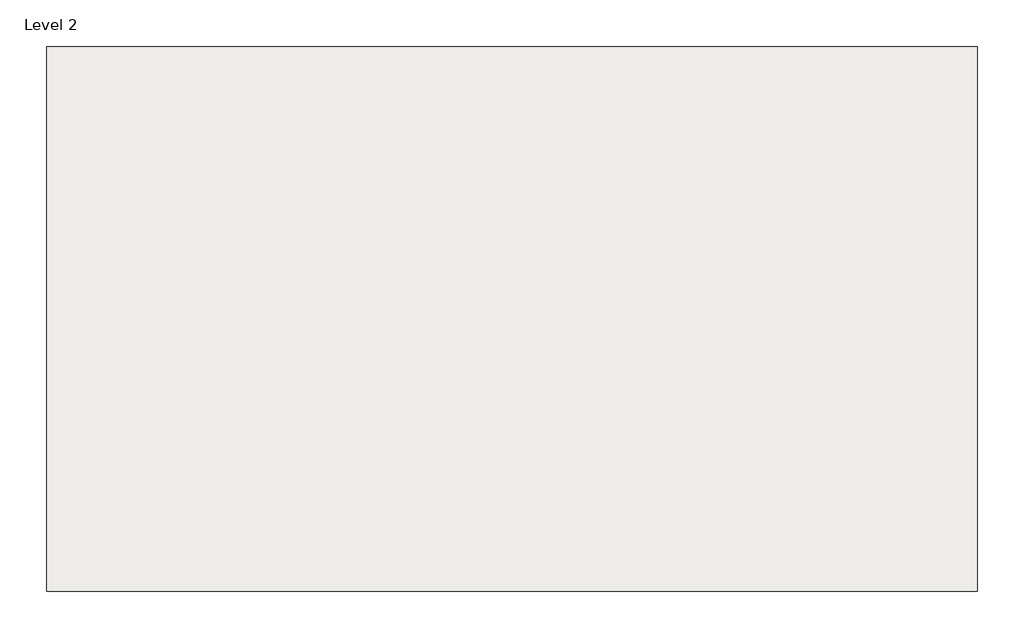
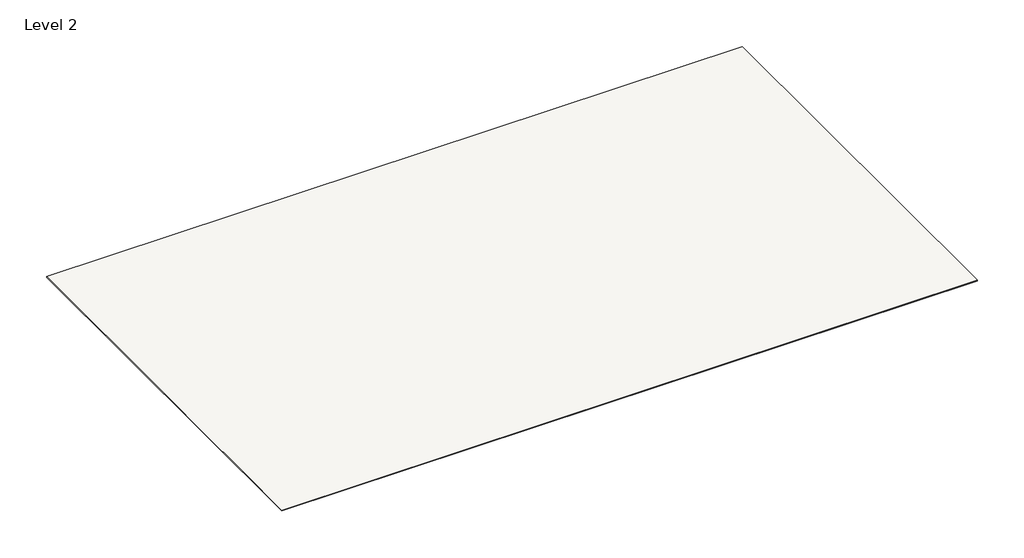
# One storey: 1 slab.
"""IFC4 building model written with IfcOpenShell, lengths in millimetres."""

from ifc_helpers import new_model, si_unit, frame, origin, place, context, project, spatial, polyline, outline, extrude, element, save

model = new_model("IFC4")

# Units and contexts
model_context = context("Model", 3, world=origin())
ifc_project = project(units=[si_unit("LENGTHUNIT", "METRE", prefix="MILLI")], contexts=[model_context])

# Site, building, storey
site = spatial("IfcSite", under=ifc_project)
building = spatial("IfcBuilding", under=site)
storey = spatial("IfcBuildingStorey", under=building, Name="Level 2", Elevation=6000.0)

# Slab
placement = place(None, origin())
element("IfcSlab", 1, ObjectType="Generic 20mm", at=placement, inside=storey, context=model_context, shape_type="SweptSolid", body=[
    extrude(outline(polyline([(-5019.1037795, 11597.455452), (-5019.1037795, 3697.455452), (-18519.1037795, 3697.455452), (-18519.1037795, 11597.455452), (-5019.1037795, 11597.455452)])), frame((0.0, 0.0, 6000.0), z_axis=(0.0, 0.0, 1.0), x_axis=(1.0, 0.0, 0.0)), (0.0, 0.0, 1.0), 20.0),
])

save(model, "model.ifc")
